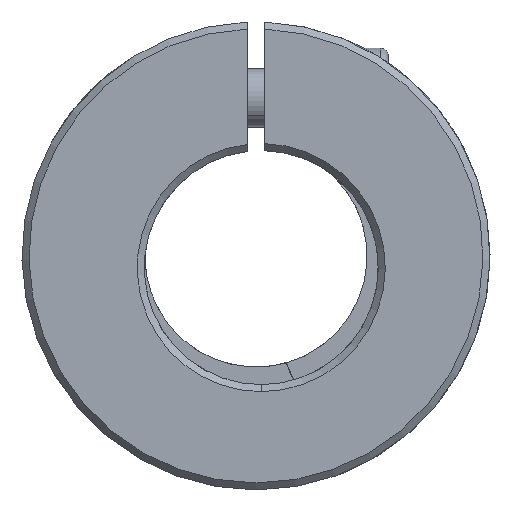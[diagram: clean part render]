
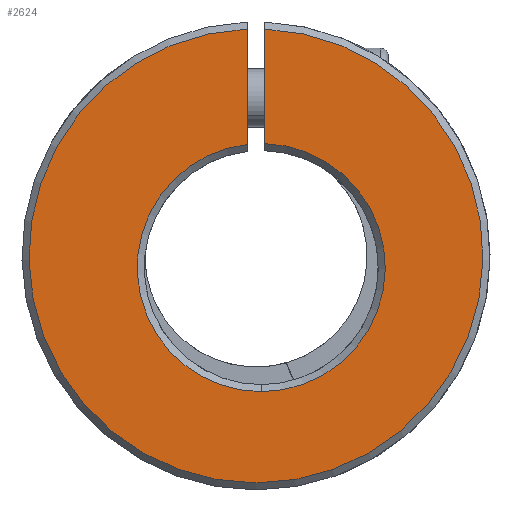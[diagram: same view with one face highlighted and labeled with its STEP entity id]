
A CAD part, front view. The second image highlights one B-rep face of the part: STEP entity #2624.
In plain terms, the highlighted planar face has unit normal (0, -1, 0).
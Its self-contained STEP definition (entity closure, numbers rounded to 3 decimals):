
#286 = ORIENTED_EDGE ( 'NONE', *, *, #4155, .T. ) ;
#389 = EDGE_CURVE ( 'NONE', #2935, #2620, #909, .T. ) ;
#521 = DIRECTION ( 'NONE',  ( 0., 0., 1. ) ) ;
#578 = CIRCLE ( 'NONE', #5553, 10.6 ) ;
#585 = CARTESIAN_POINT ( 'NONE',  ( 0.453, -30., -11.6 ) ) ;
#591 = DIRECTION ( 'NONE',  ( 0., 0., 1. ) ) ;
#622 = CARTESIAN_POINT ( 'NONE',  ( 0.75, -30., -1. ) ) ;
#690 = VERTEX_POINT ( 'NONE', #4739 ) ;
#763 = AXIS2_PLACEMENT_3D ( 'NONE', #2384, #1055, #521 ) ;
#795 = VERTEX_POINT ( 'NONE', #585 ) ;
#909 = LINE ( 'NONE', #622, #2893 ) ;
#1055 = DIRECTION ( 'NONE',  ( 0., 1., 0. ) ) ;
#1259 = EDGE_LOOP ( 'NONE', ( #1666, #286, #1421, #1850, #2749 ) ) ;
#1374 = DIRECTION ( 'NONE',  ( 0., 1., 0. ) ) ;
#1421 = ORIENTED_EDGE ( 'NONE', *, *, #2053, .T. ) ;
#1525 = CARTESIAN_POINT ( 'NONE',  ( 0.75, -30., 19.385 ) ) ;
#1666 = ORIENTED_EDGE ( 'NONE', *, *, #389, .T. ) ;
#1850 = ORIENTED_EDGE ( 'NONE', *, *, #4302, .T. ) ;
#2053 = EDGE_CURVE ( 'NONE', #795, #690, #5267, .T. ) ;
#2384 = CARTESIAN_POINT ( 'NONE',  ( 0., -30., 0. ) ) ;
#2620 = VERTEX_POINT ( 'NONE', #3253 ) ;
#2624 = ADVANCED_FACE ( 'NONE', ( #4089 ), #5084, .F. ) ;
#2638 = CIRCLE ( 'NONE', #5845, 19.4 ) ;
#2749 = ORIENTED_EDGE ( 'NONE', *, *, #4292, .T. ) ;
#2893 = VECTOR ( 'NONE', #4220, 1000. ) ;
#2935 = VERTEX_POINT ( 'NONE', #1525 ) ;
#3214 = DIRECTION ( 'NONE',  ( 0., 0., 1. ) ) ;
#3253 = CARTESIAN_POINT ( 'NONE',  ( 0.75, -30., 9.596 ) ) ;
#3267 = DIRECTION ( 'NONE',  ( 0., -1., 0. ) ) ;
#3269 = VECTOR ( 'NONE', #591, 1000. ) ;
#4089 = FACE_OUTER_BOUND ( 'NONE', #1259, .T. ) ;
#4103 = LINE ( 'NONE', #4609, #3269 ) ;
#4155 = EDGE_CURVE ( 'NONE', #2620, #795, #578, .T. ) ;
#4220 = DIRECTION ( 'NONE',  ( 0., 0., -1. ) ) ;
#4292 = EDGE_CURVE ( 'NONE', #5805, #2935, #2638, .T. ) ;
#4302 = EDGE_CURVE ( 'NONE', #690, #5805, #4103, .T. ) ;
#4583 = AXIS2_PLACEMENT_3D ( 'NONE', #5160, #5561, #4764 ) ;
#4609 = CARTESIAN_POINT ( 'NONE',  ( -0.75, -30., -1. ) ) ;
#4739 = CARTESIAN_POINT ( 'NONE',  ( -0.75, -30., 9.532 ) ) ;
#4764 = DIRECTION ( 'NONE',  ( 0., 0., 1. ) ) ;
#4905 = DIRECTION ( 'NONE',  ( 0., 0., 1. ) ) ;
#4917 = CARTESIAN_POINT ( 'NONE',  ( -0.75, -30., 19.385 ) ) ;
#5084 = PLANE ( 'NONE',  #763 ) ;
#5160 = CARTESIAN_POINT ( 'NONE',  ( 0.453, -30., -1. ) ) ;
#5267 = CIRCLE ( 'NONE', #4583, 10.6 ) ;
#5402 = CARTESIAN_POINT ( 'NONE',  ( 0.453, -30., -1. ) ) ;
#5508 = CARTESIAN_POINT ( 'NONE',  ( 0., -30., 0. ) ) ;
#5553 = AXIS2_PLACEMENT_3D ( 'NONE', #5402, #1374, #4905 ) ;
#5561 = DIRECTION ( 'NONE',  ( 0., 1., 0. ) ) ;
#5805 = VERTEX_POINT ( 'NONE', #4917 ) ;
#5845 = AXIS2_PLACEMENT_3D ( 'NONE', #5508, #3267, #3214 ) ;
